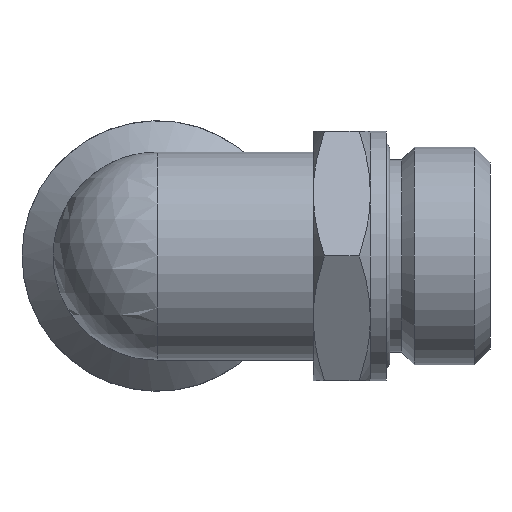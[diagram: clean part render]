
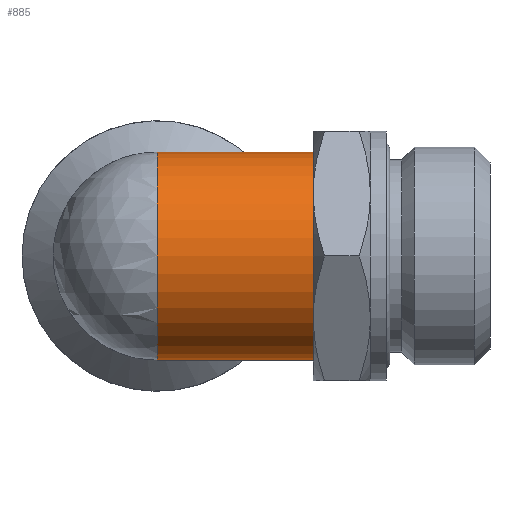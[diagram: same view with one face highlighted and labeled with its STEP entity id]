
A CAD part, left-side view. The second image highlights one B-rep face of the part: STEP entity #885.
In plain terms, the highlighted cylindrical face has radius 10 mm (diameter 20 mm), a full revolution.
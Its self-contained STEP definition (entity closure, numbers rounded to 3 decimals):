
#29=ELLIPSE('',#987,14.142,10.);
#30=ELLIPSE('',#989,14.142,10.);
#83=LINE('',#1570,#115);
#91=LINE('',#1598,#123);
#93=LINE('',#1606,#125);
#115=VECTOR('',#1150,10.);
#123=VECTOR('',#1174,10.);
#125=VECTOR('',#1178,10.);
#143=CYLINDRICAL_SURFACE('',#984,10.);
#178=FACE_OUTER_BOUND('',#233,.T.);
#233=EDGE_LOOP('',(#675,#676,#677,#678,#679,#680,#681,#682,#683,#684,#685));
#294=CIRCLE('',#981,10.);
#295=CIRCLE('',#982,10.);
#296=CIRCLE('',#985,10.);
#297=CIRCLE('',#986,10.);
#298=CIRCLE('',#988,10.);
#382=VERTEX_POINT('',#1568);
#383=VERTEX_POINT('',#1569);
#390=VERTEX_POINT('',#1591);
#391=VERTEX_POINT('',#1593);
#392=VERTEX_POINT('',#1597);
#394=VERTEX_POINT('',#1605);
#395=VERTEX_POINT('',#1607);
#396=VERTEX_POINT('',#1610);
#397=VERTEX_POINT('',#1612);
#491=EDGE_CURVE('',#382,#383,#83,.T.);
#501=EDGE_CURVE('',#383,#390,#294,.T.);
#503=EDGE_CURVE('',#390,#391,#295,.T.);
#504=EDGE_CURVE('',#391,#392,#91,.T.);
#507=EDGE_CURVE('',#390,#394,#93,.T.);
#508=EDGE_CURVE('',#394,#395,#296,.T.);
#509=EDGE_CURVE('',#395,#394,#297,.T.);
#510=EDGE_CURVE('',#396,#392,#29,.T.);
#511=EDGE_CURVE('',#397,#396,#298,.T.);
#512=EDGE_CURVE('',#382,#397,#30,.T.);
#675=ORIENTED_EDGE('',*,*,#491,.T.);
#676=ORIENTED_EDGE('',*,*,#501,.T.);
#677=ORIENTED_EDGE('',*,*,#507,.T.);
#678=ORIENTED_EDGE('',*,*,#508,.T.);
#679=ORIENTED_EDGE('',*,*,#509,.T.);
#680=ORIENTED_EDGE('',*,*,#507,.F.);
#681=ORIENTED_EDGE('',*,*,#503,.T.);
#682=ORIENTED_EDGE('',*,*,#504,.T.);
#683=ORIENTED_EDGE('',*,*,#510,.F.);
#684=ORIENTED_EDGE('',*,*,#511,.F.);
#685=ORIENTED_EDGE('',*,*,#512,.F.);
#885=ADVANCED_FACE('',(#178),#143,.T.);
#981=AXIS2_PLACEMENT_3D('',#1592,#1167,#1168);
#982=AXIS2_PLACEMENT_3D('',#1595,#1170,#1171);
#984=AXIS2_PLACEMENT_3D('',#1604,#1176,#1177);
#985=AXIS2_PLACEMENT_3D('',#1608,#1179,#1180);
#986=AXIS2_PLACEMENT_3D('',#1609,#1181,#1182);
#987=AXIS2_PLACEMENT_3D('',#1611,#1183,#1184);
#988=AXIS2_PLACEMENT_3D('',#1613,#1185,#1186);
#989=AXIS2_PLACEMENT_3D('',#1614,#1187,#1188);
#1150=DIRECTION('',(0.,-1.,0.));
#1167=DIRECTION('center_axis',(0.,-1.,0.));
#1168=DIRECTION('ref_axis',(-1.,0.,0.));
#1170=DIRECTION('center_axis',(0.,-1.,0.));
#1171=DIRECTION('ref_axis',(-1.,0.,0.));
#1174=DIRECTION('',(0.,1.,0.));
#1176=DIRECTION('center_axis',(0.,1.,0.));
#1177=DIRECTION('ref_axis',(-1.,0.,0.));
#1178=DIRECTION('',(0.,-1.,0.));
#1179=DIRECTION('center_axis',(0.,1.,0.));
#1180=DIRECTION('ref_axis',(1.,0.,0.));
#1181=DIRECTION('center_axis',(0.,1.,0.));
#1182=DIRECTION('ref_axis',(1.,0.,0.));
#1183=DIRECTION('center_axis',(0.707,0.707,0.));
#1184=DIRECTION('ref_axis',(-0.707,0.707,0.));
#1185=DIRECTION('center_axis',(0.,1.,0.));
#1186=DIRECTION('ref_axis',(1.,0.,0.));
#1187=DIRECTION('center_axis',(0.707,0.707,0.));
#1188=DIRECTION('ref_axis',(-0.707,0.707,0.));
#1568=CARTESIAN_POINT('',(9.95,-9.95,-1.));
#1569=CARTESIAN_POINT('',(9.95,-13.,-1.));
#1570=CARTESIAN_POINT('',(9.95,-7.5,-1.));
#1591=CARTESIAN_POINT('',(10.,-13.,0.));
#1592=CARTESIAN_POINT('Origin',(0.,-13.,0.));
#1593=CARTESIAN_POINT('',(9.95,-13.,1.));
#1595=CARTESIAN_POINT('Origin',(0.,-13.,0.));
#1597=CARTESIAN_POINT('',(9.95,-9.95,1.));
#1598=CARTESIAN_POINT('',(9.95,-7.5,1.));
#1604=CARTESIAN_POINT('Origin',(0.,-7.5,0.));
#1605=CARTESIAN_POINT('',(10.,-15.,0.));
#1606=CARTESIAN_POINT('',(10.,-7.5,0.));
#1607=CARTESIAN_POINT('',(-10.,-15.,0.));
#1608=CARTESIAN_POINT('Origin',(0.,-15.,0.));
#1609=CARTESIAN_POINT('Origin',(0.,-15.,0.));
#1610=CARTESIAN_POINT('',(0.,0.,10.));
#1611=CARTESIAN_POINT('Origin',(0.,0.,0.));
#1612=CARTESIAN_POINT('',(0.,0.,-10.));
#1613=CARTESIAN_POINT('Origin',(0.,0.,0.));
#1614=CARTESIAN_POINT('Origin',(0.,0.,0.));
